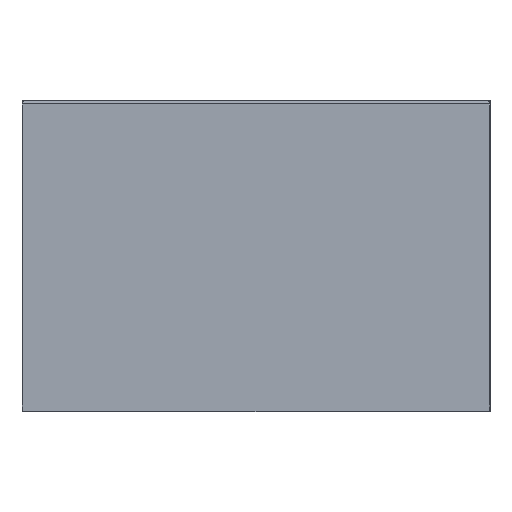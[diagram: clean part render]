
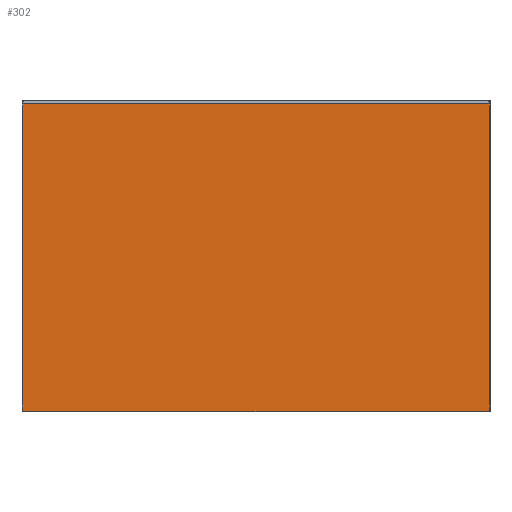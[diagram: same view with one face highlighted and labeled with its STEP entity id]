
A CAD part, front view. The second image highlights one B-rep face of the part: STEP entity #302.
In plain terms, the highlighted planar face has unit normal (0, -1, 0).
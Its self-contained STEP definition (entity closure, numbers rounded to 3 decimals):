
#81 = CARTESIAN_POINT ( 'NONE',  ( -747., -20., -497. ) ) ;
#213 = CARTESIAN_POINT ( 'NONE',  ( -747., -20., 497. ) ) ;
#222 = EDGE_CURVE ( 'NONE', #605, #1286, #683, .T. ) ;
#302 = ADVANCED_FACE ( 'NONE', ( #1690 ), #1242, .T. ) ;
#306 = VECTOR ( 'NONE', #1253, 1000. ) ;
#317 = ORIENTED_EDGE ( 'NONE', *, *, #1037, .F. ) ;
#369 = EDGE_LOOP ( 'NONE', ( #1298, #387, #317, #558 ) ) ;
#374 = CARTESIAN_POINT ( 'NONE',  ( 747., -20., -497. ) ) ;
#387 = ORIENTED_EDGE ( 'NONE', *, *, #941, .F. ) ;
#493 = CARTESIAN_POINT ( 'NONE',  ( -747., -20., 497. ) ) ;
#558 = ORIENTED_EDGE ( 'NONE', *, *, #1317, .F. ) ;
#568 = CARTESIAN_POINT ( 'NONE',  ( 747., -20., 497. ) ) ;
#605 = VERTEX_POINT ( 'NONE', #568 ) ;
#660 = LINE ( 'NONE', #1367, #1183 ) ;
#683 = LINE ( 'NONE', #1115, #306 ) ;
#770 = VECTOR ( 'NONE', #1503, 1000. ) ;
#878 = VERTEX_POINT ( 'NONE', #81 ) ;
#941 = EDGE_CURVE ( 'NONE', #1275, #605, #1845, .T. ) ;
#1037 = EDGE_CURVE ( 'NONE', #878, #1275, #660, .T. ) ;
#1075 = DIRECTION ( 'NONE',  ( -1., 0., 0. ) ) ;
#1115 = CARTESIAN_POINT ( 'NONE',  ( 747., -20., 497. ) ) ;
#1183 = VECTOR ( 'NONE', #1511, 1000. ) ;
#1225 = LINE ( 'NONE', #1509, #1784 ) ;
#1227 = AXIS2_PLACEMENT_3D ( 'NONE', #1743, #1279, #1879 ) ;
#1242 = PLANE ( 'NONE',  #1227 ) ;
#1253 = DIRECTION ( 'NONE',  ( 0., 0., -1. ) ) ;
#1275 = VERTEX_POINT ( 'NONE', #493 ) ;
#1279 = DIRECTION ( 'NONE',  ( 0., -1., 0. ) ) ;
#1286 = VERTEX_POINT ( 'NONE', #374 ) ;
#1298 = ORIENTED_EDGE ( 'NONE', *, *, #222, .F. ) ;
#1317 = EDGE_CURVE ( 'NONE', #1286, #878, #1225, .T. ) ;
#1367 = CARTESIAN_POINT ( 'NONE',  ( -747., -20., 497. ) ) ;
#1503 = DIRECTION ( 'NONE',  ( 1., 0., 0. ) ) ;
#1509 = CARTESIAN_POINT ( 'NONE',  ( -747., -20., -497. ) ) ;
#1511 = DIRECTION ( 'NONE',  ( 0., 0., 1. ) ) ;
#1690 = FACE_OUTER_BOUND ( 'NONE', #369, .T. ) ;
#1743 = CARTESIAN_POINT ( 'NONE',  ( 0., -20., 0. ) ) ;
#1784 = VECTOR ( 'NONE', #1075, 1000. ) ;
#1845 = LINE ( 'NONE', #213, #770 ) ;
#1879 = DIRECTION ( 'NONE',  ( 0., 0., -1. ) ) ;
